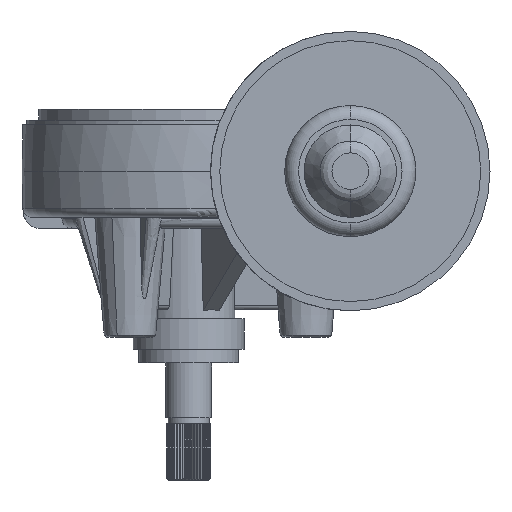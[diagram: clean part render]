
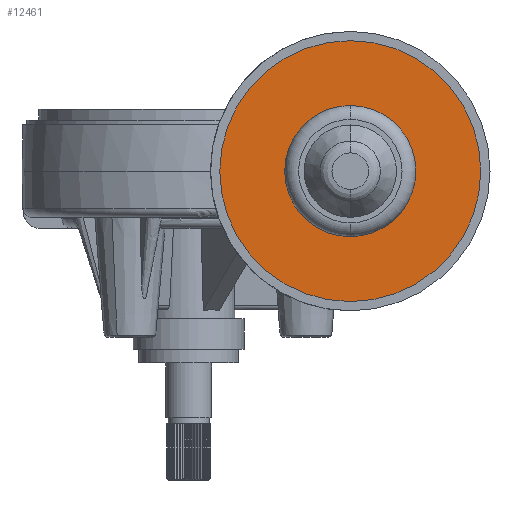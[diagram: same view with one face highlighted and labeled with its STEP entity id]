
A CAD part, front view. The second image highlights one B-rep face of the part: STEP entity #12461.
In plain terms, the highlighted planar face has unit normal (0, -1, 0).
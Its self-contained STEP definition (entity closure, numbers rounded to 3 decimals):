
#527 = DIRECTION ( 'NONE',  ( 0., 0., -1. ) ) ;
#719 = CARTESIAN_POINT ( 'NONE',  ( 35., -125., -10. ) ) ;
#1791 = DIRECTION ( 'NONE',  ( 0., -1., 0. ) ) ;
#1800 = ORIENTED_EDGE ( 'NONE', *, *, #9104, .F. ) ;
#3161 = EDGE_LOOP ( 'NONE', ( #21425, #1800 ) ) ;
#3453 = AXIS2_PLACEMENT_3D ( 'NONE', #719, #14555, #21449 ) ;
#3777 = AXIS2_PLACEMENT_3D ( 'NONE', #6663, #1791, #8716 ) ;
#3953 = AXIS2_PLACEMENT_3D ( 'NONE', #7337, #19349, #527 ) ;
#5217 = ORIENTED_EDGE ( 'NONE', *, *, #14851, .T. ) ;
#5336 = VERTEX_POINT ( 'NONE', #16470 ) ;
#6107 = FACE_BOUND ( 'NONE', #3161, .T. ) ;
#6335 = AXIS2_PLACEMENT_3D ( 'NONE', #14780, #14892, #18618 ) ;
#6663 = CARTESIAN_POINT ( 'NONE',  ( 35., -125., -10. ) ) ;
#6828 = EDGE_LOOP ( 'NONE', ( #9998, #5217 ) ) ;
#7026 = VERTEX_POINT ( 'NONE', #22267 ) ;
#7337 = CARTESIAN_POINT ( 'NONE',  ( 35., -125., -10. ) ) ;
#8511 = CIRCLE ( 'NONE', #6335, 14.2 ) ;
#8716 = DIRECTION ( 'NONE',  ( 0., 0., -1. ) ) ;
#8820 = PLANE ( 'NONE',  #3777 ) ;
#9104 = EDGE_CURVE ( 'NONE', #17226, #5336, #8511, .T. ) ;
#9947 = CIRCLE ( 'NONE', #21167, 28.25 ) ;
#9998 = ORIENTED_EDGE ( 'NONE', *, *, #14102, .T. ) ;
#12411 = DIRECTION ( 'NONE',  ( 0., 0., -1. ) ) ;
#12461 = ADVANCED_FACE ( 'NONE', ( #6107, #13040 ), #8820, .T. ) ;
#13040 = FACE_OUTER_BOUND ( 'NONE', #6828, .T. ) ;
#13977 = CIRCLE ( 'NONE', #3453, 28.25 ) ;
#14102 = EDGE_CURVE ( 'NONE', #7026, #15463, #13977, .T. ) ;
#14555 = DIRECTION ( 'NONE',  ( 0., -1., 0. ) ) ;
#14780 = CARTESIAN_POINT ( 'NONE',  ( 35., -125., -10. ) ) ;
#14851 = EDGE_CURVE ( 'NONE', #15463, #7026, #9947, .T. ) ;
#14892 = DIRECTION ( 'NONE',  ( 0., -1., 0. ) ) ;
#15463 = VERTEX_POINT ( 'NONE', #17342 ) ;
#16177 = CARTESIAN_POINT ( 'NONE',  ( 35., -125., -24.2 ) ) ;
#16264 = CIRCLE ( 'NONE', #3953, 14.2 ) ;
#16470 = CARTESIAN_POINT ( 'NONE',  ( 35., -125., 4.2 ) ) ;
#17226 = VERTEX_POINT ( 'NONE', #16177 ) ;
#17342 = CARTESIAN_POINT ( 'NONE',  ( 35., -125., 18.25 ) ) ;
#18618 = DIRECTION ( 'NONE',  ( 0., 0., -1. ) ) ;
#19089 = CARTESIAN_POINT ( 'NONE',  ( 35., -125., -10. ) ) ;
#19349 = DIRECTION ( 'NONE',  ( 0., -1., 0. ) ) ;
#20397 = EDGE_CURVE ( 'NONE', #5336, #17226, #16264, .T. ) ;
#21129 = DIRECTION ( 'NONE',  ( 0., -1., 0. ) ) ;
#21167 = AXIS2_PLACEMENT_3D ( 'NONE', #19089, #21129, #12411 ) ;
#21425 = ORIENTED_EDGE ( 'NONE', *, *, #20397, .F. ) ;
#21449 = DIRECTION ( 'NONE',  ( 0., 0., -1. ) ) ;
#22267 = CARTESIAN_POINT ( 'NONE',  ( 35., -125., -38.25 ) ) ;
